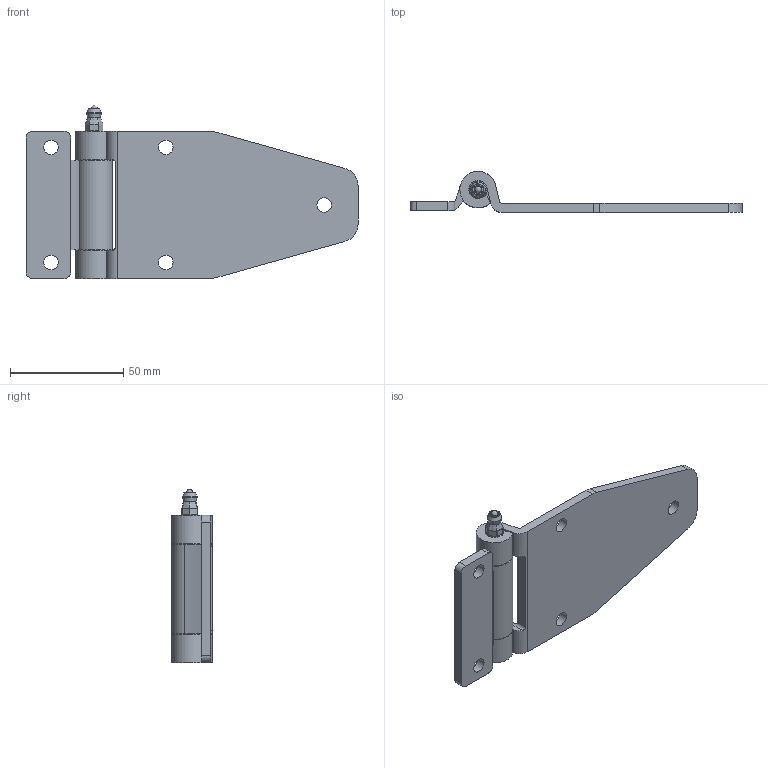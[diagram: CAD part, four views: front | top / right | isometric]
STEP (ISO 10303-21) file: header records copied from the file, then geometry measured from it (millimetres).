
FILE_DESCRIPTION(/* description */ (''),/* implementation_level */ '2;1');
FILE_NAME(/* name */ 'C:\Users\suraj\Desktop\2216-003.stp',/* time_stamp */ '2022-12-02T08:42:08+00:00',/* author */ ('suraj'),/* organization */ (''),/* preprocessor_version */ 'ST-DEVELOPER v18.1',/* originating_system */ 'Autodesk Inventor 2022',/* authorisation */ '');
FILE_SCHEMA (('AUTOMOTIVE_DESIGN { 1 0 10303 214 3 1 1 }'));
Length unit declared in the file: millimetre
Products named in the file (1): 2216-003
Bounding box: 146.5 x 17.98 x 76.39 mm (x, y, z)
Volume: 41928.6 mm3; surface area: 21926.6 mm2
Topology: 2 solids, 2 shells, 131 faces, 341 edges, 213 vertices
Faces by surface type: plane 42, cylinder 41, bspline 34, sphere 7, torus 5, cone 2
Full cylindrical faces by diameter (mm): 3 x1, 5 x1, 6 x1, 6.4 x5, 8 x1
Entity records: 4872 total; most frequent: CARTESIAN_POINT 1646, ORIENTED_EDGE 678, DIRECTION 546, EDGE_CURVE 339, VERTEX_POINT 213, AXIS2_PLACEMENT_3D 197, LINE 152, VECTOR 152
